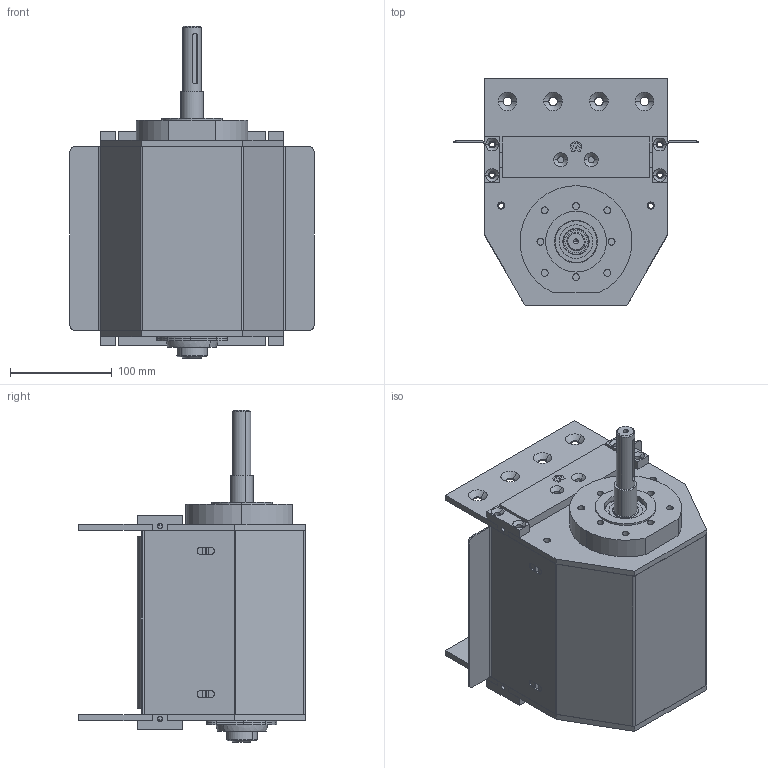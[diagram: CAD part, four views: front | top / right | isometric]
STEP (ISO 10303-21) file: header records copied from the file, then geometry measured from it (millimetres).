
FILE_DESCRIPTION (( 'STEP AP203' ), '1' );
FILE_NAME ('084.050.KCS.44.150.STEP', '2019-07-29T13:48:40', ( '' ), ( '' ), 'SwSTEP 2.0', 'SolidWorks 2018', '' );
FILE_SCHEMA (( 'CONFIG_CONTROL_DESIGN' ));
Length unit declared in the file: millimetre
Products named in the file (15): 084.802.021; 084.802.003; CUSCINETTI A SFERE_6004-2RS; TRAVERSA PER CARTER^084.050.KCS.44.150_Default<A macchina>; 084.802.004-1; 084.817.005_Default<A macchina>; 084.802.020; 084.817.008; 084.802.012_Solo centrale; 084.817.006; 084.817.037; 084.050.KCS.44.150; 084.810.003; 084.802.010; 084.817.007
Assembly tree (26 placements, depth 2):
  084.050.KCS.44.150
    084.817.008  x2
    084.817.005_Default<A macchina>
    084.817.006
    084.817.007  x2
    TRAVERSA PER CARTER^084.050.KCS.44.150_Default<A macchina>  x2
    084.802.021
    084.810.003  x2
    084.802.004-1  x4
    084.802.020
    084.802.003  x2
    CUSCINETTI A SFERE_6004-2RS  x4
    084.817.037
    084.802.010
    084.802.012_Solo centrale  x2
Bounding box: 240 x 223 x 326.5 mm (x, y, z)
Volume: 1859881.6 mm3; surface area: 929358 mm2
Topology: 28 solids, 28 shells, 1151 faces, 2929 edges, 1894 vertices
Faces by surface type: plane 547, cylinder 398, cone 120, torus 76, sphere 10
Entity records: 23142 total; most frequent: DIRECTION 3883, CARTESIAN_POINT 3725, ORIENTED_EDGE 3474, EDGE_CURVE 1737, AXIS2_PLACEMENT_3D 1439, VERTEX_POINT 1121, LINE 1005, VECTOR 1005
